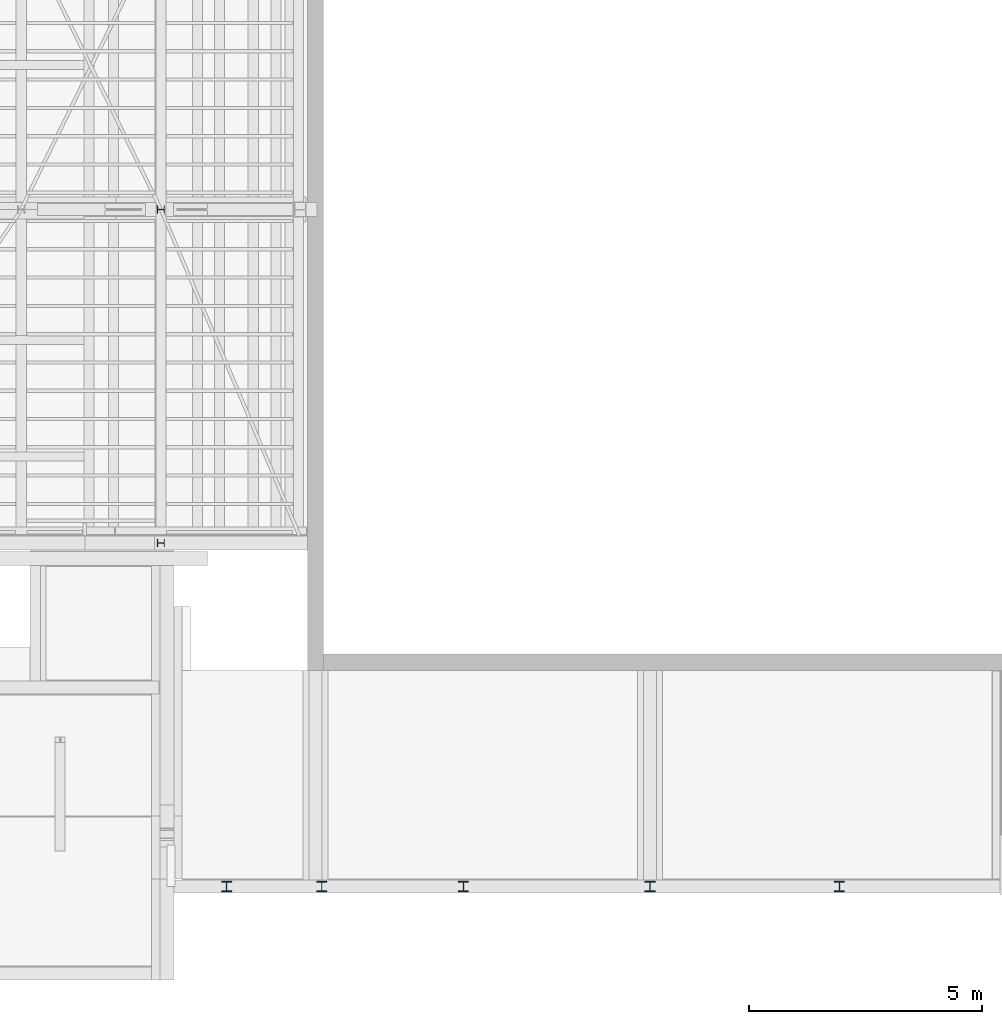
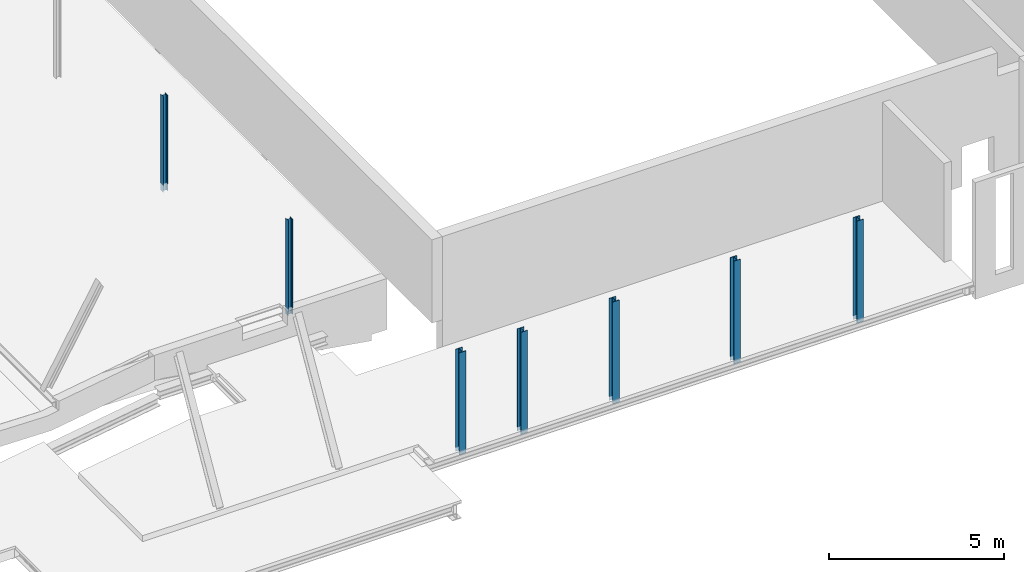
# One storey, part 3 of 50: 7 columns.
"""IFC2X3 building model written with IfcOpenShell, lengths in millimetres."""

from ifc_helpers import new_model, entity, si_unit, converted_unit, derived_unit, direction, frame, frame_2d, origin, place, context, subcontext, project, spatial, polyline, circle_curve, parameter, trimmed, segment, composite_curve, i_section, outline, extrude, source, transform, mapped, material, type_object, type_shapes, element, save


model = new_model("IFC2X3")

# Units and contexts
model_context = context("Model", 3, precision=0.01, world=origin(), true_north=direction((6.12303176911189e-17, 1.0)))
body_context = subcontext(model_context, "Body", "Model", "MODEL_VIEW")
ifc_project = project(units=[si_unit("LENGTHUNIT", "METRE", prefix="MILLI"), si_unit("AREAUNIT", "SQUARE_METRE", prefix="MILLI"), si_unit("VOLUMEUNIT", "CUBIC_METRE"), converted_unit("PLANEANGLEUNIT", "DEGREE", entity("IfcRatioMeasure", 0.0174532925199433), si_unit("PLANEANGLEUNIT", "RADIAN"), dimensions=[0, 0, 0, 0, 0, 0, 0]), si_unit("MASSUNIT", "GRAM", prefix="KILO"), derived_unit("MASSDENSITYUNIT", [(si_unit("MASSUNIT", "GRAM", prefix="KILO"), 1), (si_unit("LENGTHUNIT", "METRE"), -3)]), derived_unit("MOMENTOFINERTIAUNIT", [(si_unit("LENGTHUNIT", "METRE"), 4)]), si_unit("TIMEUNIT", "SECOND"), si_unit("FREQUENCYUNIT", "HERTZ"), si_unit("THERMODYNAMICTEMPERATUREUNIT", "DEGREE_CELSIUS"), derived_unit("THERMALTRANSMITTANCEUNIT", [(si_unit("MASSUNIT", "GRAM", prefix="KILO"), 1), (si_unit("THERMODYNAMICTEMPERATUREUNIT", "KELVIN"), -1), (si_unit("TIMEUNIT", "SECOND"), -3)]), derived_unit("VOLUMETRICFLOWRATEUNIT", [(si_unit("LENGTHUNIT", "METRE"), 3), (si_unit("TIMEUNIT", "SECOND"), -1)]), si_unit("ELECTRICCURRENTUNIT", "AMPERE"), si_unit("ELECTRICVOLTAGEUNIT", "VOLT"), si_unit("POWERUNIT", "WATT"), si_unit("FORCEUNIT", "NEWTON", prefix="KILO"), si_unit("ILLUMINANCEUNIT", "LUX"), si_unit("LUMINOUSFLUXUNIT", "LUMEN"), si_unit("LUMINOUSINTENSITYUNIT", "CANDELA"), derived_unit("USERDEFINED", [(si_unit("MASSUNIT", "GRAM", prefix="KILO"), -1), (si_unit("LENGTHUNIT", "METRE"), -2), (si_unit("TIMEUNIT", "SECOND"), 3), (si_unit("LUMINOUSFLUXUNIT", "LUMEN"), 1)]), derived_unit("LINEARVELOCITYUNIT", [(si_unit("LENGTHUNIT", "METRE"), 1), (si_unit("TIMEUNIT", "SECOND"), -1)]), si_unit("PRESSUREUNIT", "PASCAL"), derived_unit("USERDEFINED", [(si_unit("LENGTHUNIT", "METRE"), -2), (si_unit("MASSUNIT", "GRAM", prefix="KILO"), 1), (si_unit("TIMEUNIT", "SECOND"), -2)]), derived_unit("LINEARFORCEUNIT", [(si_unit("MASSUNIT", "GRAM", prefix="KILO"), 1), (si_unit("LENGTHUNIT", "METRE"), 1), (si_unit("TIMEUNIT", "SECOND"), -2), (si_unit("LENGTHUNIT", "METRE"), -1)]), derived_unit("PLANARFORCEUNIT", [(si_unit("MASSUNIT", "GRAM", prefix="KILO"), 1), (si_unit("LENGTHUNIT", "METRE"), 1), (si_unit("TIMEUNIT", "SECOND"), -2), (si_unit("LENGTHUNIT", "METRE"), -2)])], contexts=[model_context])

# Site, building, storey
site_placement = place(None, origin())
site = spatial("IfcSite", under=ifc_project, at=site_placement, Name="Theater aan de Parade", CompositionType="ELEMENT")
building_placement = place(site_placement, origin())
building = spatial("IfcBuilding", under=site, at=building_placement, Name="Theater aan de Parade", CompositionType="ELEMENT")
storey_placement = place(building_placement, frame((0.0, 0.0, 15820.0)))
storey = spatial("IfcBuildingStorey", under=building, at=storey_placement, Name="04 vierde verdieping", CompositionType="ELEMENT", Elevation=15820.0)

# Columns
ifc_material = material(Name="00_PBT_MAT_staal_S355")
column_type_1 = type_object("IfcColumnType", Name="28_PBT_SC_staal_H-profiel:S355_HE220B", PredefinedType="COLUMN", material=ifc_material)
shared_shape_1 = source(origin(), body_context, "Body", "SweptSolid", [
    extrude(outline(composite_curve([segment(polyline([(94.0, -110.0), (110.0, -110.0)]), True, "CONTINUOUS"), segment(polyline([(110.0, -110.0), (110.0, 110.0)]), True, "CONTINUOUS"), segment(polyline([(110.0, 110.0), (94.0, 110.0)]), True, "CONTINUOUS"), segment(polyline([(94.0, 110.0), (94.0, 22.75)]), True, "CONTINUOUS"), segment(trimmed(circle_curve(frame_2d((76.0, 22.75), x_axis=(1.0, 0.0)), 18.0), [parameter(270.0)], [parameter(0.0)], True, "PARAMETER"), False, "CONTINUOUS"), segment(polyline([(76.0, 4.75000000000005), (-76.0, 4.75)]), True, "CONTINUOUS"), segment(trimmed(circle_curve(frame_2d((-76.0, 22.75), x_axis=(0.0, -1.0)), 18.0), [parameter(270.0)], [parameter(0.0)], True, "PARAMETER"), False, "CONTINUOUS"), segment(polyline([(-94.0, 22.75), (-94.0, 110.0)]), True, "CONTINUOUS"), segment(polyline([(-94.0, 110.0), (-110.0, 110.0)]), True, "CONTINUOUS"), segment(polyline([(-110.0, 110.0), (-110.0, -110.0)]), True, "CONTINUOUS"), segment(polyline([(-110.0, -110.0), (-94.0, -110.0)]), True, "CONTINUOUS"), segment(polyline([(-94.0, -110.0), (-94.0, -22.75)]), True, "CONTINUOUS"), segment(trimmed(circle_curve(frame_2d((-76.0, -22.75), x_axis=(-1.0, 0.0)), 18.0), [parameter(270.0)], [parameter(0.0)], True, "PARAMETER"), False, "CONTINUOUS"), segment(polyline([(-76.0, -4.74999999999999), (76.0, -4.74999999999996)]), True, "CONTINUOUS"), segment(trimmed(circle_curve(frame_2d((76.0, -22.7499999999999), x_axis=(0.0, 1.0)), 18.0), [parameter(270.0)], [parameter(0.0)], True, "PARAMETER"), False, "CONTINUOUS"), segment(polyline([(94.0, -22.75), (94.0, -110.0)]), True, "CONTINUOUS")], self_intersect=False)), frame((0.0, 0.0, 16310.0), z_axis=(0.0, 0.0, 1.0), x_axis=(0.0, -1.0, 0.0)), (0.0, 0.0, 1.0), 3590.0),
])
type_shapes(column_type_1, [shared_shape_1])
column_1_placement = place(storey_placement, frame((74711.8589693, 14822.0, -15820.0), z_axis=(0.0, 0.0, 1.0), x_axis=(-1.0, 0.0, 0.0)))
element("IfcColumn", 1, at=column_1_placement, inside=storey, type_object=column_type_1, material=ifc_material, Name="28_PBT_SC_staal_H-profiel:S355_HE220B", ObjectType="28_PBT_SC_staal_H-profiel:S355_HE220B", context=body_context, shape_type="MappedRepresentation", body=[
    mapped(shared_shape_1, transform((0.0, 0.0, 0.0), scale=1.0)),
])
column_type_2 = type_object("IfcColumnType", Name="28_PBT_SC_staal_H-profiel:S355_HE220B", PredefinedType="COLUMN", material=ifc_material)
shared_shape_2 = source(origin(), body_context, "Body", "SweptSolid", [
    extrude(outline(composite_curve([segment(polyline([(94.0, -110.0), (110.0, -110.0)]), True, "CONTINUOUS"), segment(polyline([(110.0, -110.0), (110.0, 110.0)]), True, "CONTINUOUS"), segment(polyline([(110.0, 110.0), (94.0, 110.0)]), True, "CONTINUOUS"), segment(polyline([(94.0, 110.0), (94.0, 22.75)]), True, "CONTINUOUS"), segment(trimmed(circle_curve(frame_2d((76.0, 22.75), x_axis=(1.0, 0.0)), 18.0), [parameter(270.0)], [parameter(0.0)], True, "PARAMETER"), False, "CONTINUOUS"), segment(polyline([(76.0, 4.75000000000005), (-76.0, 4.75)]), True, "CONTINUOUS"), segment(trimmed(circle_curve(frame_2d((-76.0, 22.75), x_axis=(0.0, -1.0)), 18.0), [parameter(270.0)], [parameter(0.0)], True, "PARAMETER"), False, "CONTINUOUS"), segment(polyline([(-94.0, 22.75), (-94.0, 110.0)]), True, "CONTINUOUS"), segment(polyline([(-94.0, 110.0), (-110.0, 110.0)]), True, "CONTINUOUS"), segment(polyline([(-110.0, 110.0), (-110.0, -110.0)]), True, "CONTINUOUS"), segment(polyline([(-110.0, -110.0), (-94.0, -110.0)]), True, "CONTINUOUS"), segment(polyline([(-94.0, -110.0), (-94.0, -22.75)]), True, "CONTINUOUS"), segment(trimmed(circle_curve(frame_2d((-76.0, -22.75), x_axis=(-1.0, 0.0)), 18.0), [parameter(270.0)], [parameter(0.0)], True, "PARAMETER"), False, "CONTINUOUS"), segment(polyline([(-76.0, -4.74999999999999), (76.0, -4.74999999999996)]), True, "CONTINUOUS"), segment(trimmed(circle_curve(frame_2d((76.0, -22.7499999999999), x_axis=(0.0, 1.0)), 18.0), [parameter(270.0)], [parameter(0.0)], True, "PARAMETER"), False, "CONTINUOUS"), segment(polyline([(94.0, -22.75), (94.0, -110.0)]), True, "CONTINUOUS")], self_intersect=False)), frame((0.0, 0.0, 16310.0), z_axis=(0.0, 0.0, 1.0), x_axis=(0.0, -1.0, 0.0)), (0.0, 0.0, 1.0), 3565.0),
])
type_shapes(column_type_2, [shared_shape_2])
for number, where, z_axis, x_axis in (
    (2, (78773.8589693, 14822.0, -15820.0), (0.0, 0.0, 1.0), (-1.0, 0.0, 0.0)),
    (3, (70704.8589693, 14822.0, -15820.0), (0.0, 0.0, 1.0), (-1.0, 0.0, 0.0)),
    (4, (67666.0563479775, 14822.0, -15820.0), (0.0, 0.0, 1.0), (-1.0, 0.0, 0.0)),
    (5, (65627.3589693, 14822.0, -15820.0), (0.0, 0.0, 1.0), (-1.0, 0.0, 0.0)),
):
    element("IfcColumn", number, at=place(storey_placement, frame(where, z_axis=z_axis, x_axis=x_axis)), inside=storey, type_object=column_type_2, material=ifc_material, Name="28_PBT_SC_staal_H-profiel:S355_HE220B", ObjectType="28_PBT_SC_staal_H-profiel:S355_HE220B", context=body_context, shape_type="MappedRepresentation", body=[
        mapped(shared_shape_2, transform((0.0, 0.0, 0.0), scale=1.0)),
    ])
column_type_3 = type_object("IfcColumnType", Name="28_PBT_SC_staal_H-profiel:S355_HE160A", PredefinedType="COLUMN", material=ifc_material)
shared_shape_3 = source(origin(), body_context, "Body", "SweptSolid", [
    extrude(i_section(OverallWidth=159.999999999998, OverallDepth=152.0, WebThickness=6.00000000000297, FlangeThickness=8.99999999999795, FilletRadius=14.9999999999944, at=frame_2d((-2.1600499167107e-12, 8.66151594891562e-12), x_axis=(1.0, 0.0))), frame((64216.05603639, 29346.916549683, 17140.0), z_axis=(0.0, 0.0, 1.0), x_axis=(0.0, -1.0, 0.0)), (0.0, 0.0, 1.0), 3346.0),
])
type_shapes(column_type_3, [shared_shape_3])
column_2_placement = place(storey_placement, frame((0.0, 0.0, -15820.0)))
element("IfcColumn", 6, at=column_2_placement, inside=storey, type_object=column_type_3, material=ifc_material, Name="28_PBT_SC_staal_H-profiel:S355_HE160A", ObjectType="28_PBT_SC_staal_H-profiel:S355_HE160A", context=body_context, shape_type="MappedRepresentation", body=[
    mapped(shared_shape_3, transform((0.0, 0.0, 0.0), scale=1.0)),
])
column_type_4 = type_object("IfcColumnType", Name="28_PBT_SC_staal_H-profiel:S355_HE160A", PredefinedType="COLUMN", material=ifc_material)
shared_shape_4 = source(origin(), body_context, "Body", "SweptSolid", [
    extrude(i_section(OverallWidth=159.999999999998, OverallDepth=152.0, WebThickness=6.00000000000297, FlangeThickness=8.99999999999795, FilletRadius=14.9999999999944, at=frame_2d((-2.1600499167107e-12, 0.0), x_axis=(1.0, 0.0))), frame((64216.05603639, 22190.0, 17161.0), z_axis=(0.0, 0.0, 1.0), x_axis=(0.0, -1.0, 0.0)), (0.0, 0.0, 1.0), 3329.19996729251),
])
type_shapes(column_type_4, [shared_shape_4])
column_3_placement = place(storey_placement, frame((0.0, 0.0, -15820.0)))
element("IfcColumn", 7, at=column_3_placement, inside=storey, type_object=column_type_4, material=ifc_material, Name="28_PBT_SC_staal_H-profiel:S355_HE160A", ObjectType="28_PBT_SC_staal_H-profiel:S355_HE160A", context=body_context, shape_type="MappedRepresentation", body=[
    mapped(shared_shape_4, transform((0.0, 0.0, 0.0), scale=1.0)),
])

save(model, "model.ifc")
